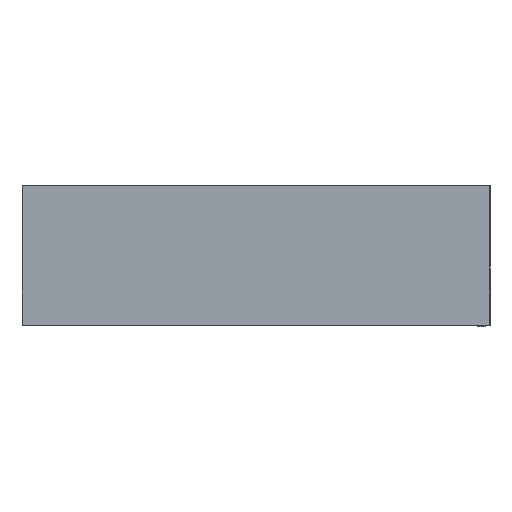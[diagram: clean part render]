
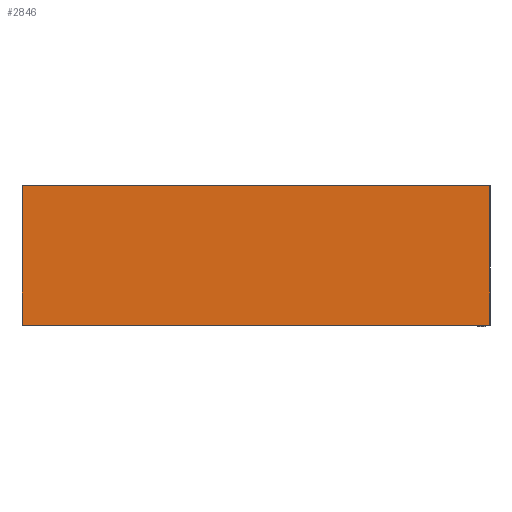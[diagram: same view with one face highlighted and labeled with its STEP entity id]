
A CAD part, top view. The second image highlights one B-rep face of the part: STEP entity #2846.
In plain terms, the highlighted planar face has unit normal (0, 0, 1).
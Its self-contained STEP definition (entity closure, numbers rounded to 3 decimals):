
#468=FACE_OUTER_BOUND('',#644,.T.);
#644=EDGE_LOOP('',(#2105,#2106,#2107,#2108));
#849=LINE('',#4351,#1091);
#868=LINE('',#4397,#1110);
#889=LINE('',#4447,#1131);
#901=LINE('',#4474,#1143);
#1091=VECTOR('',#3442,10.);
#1110=VECTOR('',#3489,10.);
#1131=VECTOR('',#3540,10.);
#1143=VECTOR('',#3576,10.);
#1332=VERTEX_POINT('',#4348);
#1333=VERTEX_POINT('',#4350);
#1346=VERTEX_POINT('',#4396);
#1360=VERTEX_POINT('',#4446);
#1582=EDGE_CURVE('',#1333,#1332,#849,.T.);
#1605=EDGE_CURVE('',#1346,#1333,#868,.T.);
#1630=EDGE_CURVE('',#1360,#1346,#889,.T.);
#1645=EDGE_CURVE('',#1360,#1332,#901,.T.);
#2105=ORIENTED_EDGE('',*,*,#1582,.T.);
#2106=ORIENTED_EDGE('',*,*,#1645,.F.);
#2107=ORIENTED_EDGE('',*,*,#1630,.T.);
#2108=ORIENTED_EDGE('',*,*,#1605,.T.);
#2729=PLANE('',#3126);
#2846=ADVANCED_FACE('',(#468),#2729,.T.);
#3126=AXIS2_PLACEMENT_3D('',#4476,#3579,#3580);
#3442=DIRECTION('',(0.,1.,0.));
#3489=DIRECTION('',(1.,0.,0.));
#3540=DIRECTION('',(0.,-1.,0.));
#3576=DIRECTION('',(1.,0.,0.));
#3579=DIRECTION('center_axis',(0.,0.,1.));
#3580=DIRECTION('ref_axis',(1.,0.,0.));
#4348=CARTESIAN_POINT('',(66.9,750.,0.8));
#4350=CARTESIAN_POINT('',(66.9,-750.4,0.8));
#4351=CARTESIAN_POINT('',(66.9,-375.7,0.8));
#4396=CARTESIAN_POINT('',(-379.9,-750.4,0.8));
#4397=CARTESIAN_POINT('',(-268.2,-750.4,0.8));
#4446=CARTESIAN_POINT('',(-379.9,750.,0.8));
#4447=CARTESIAN_POINT('',(-379.9,374.5,0.8));
#4474=CARTESIAN_POINT('',(68.5,750.,0.8));
#4476=CARTESIAN_POINT('Origin',(-156.5,-1.,0.8));
